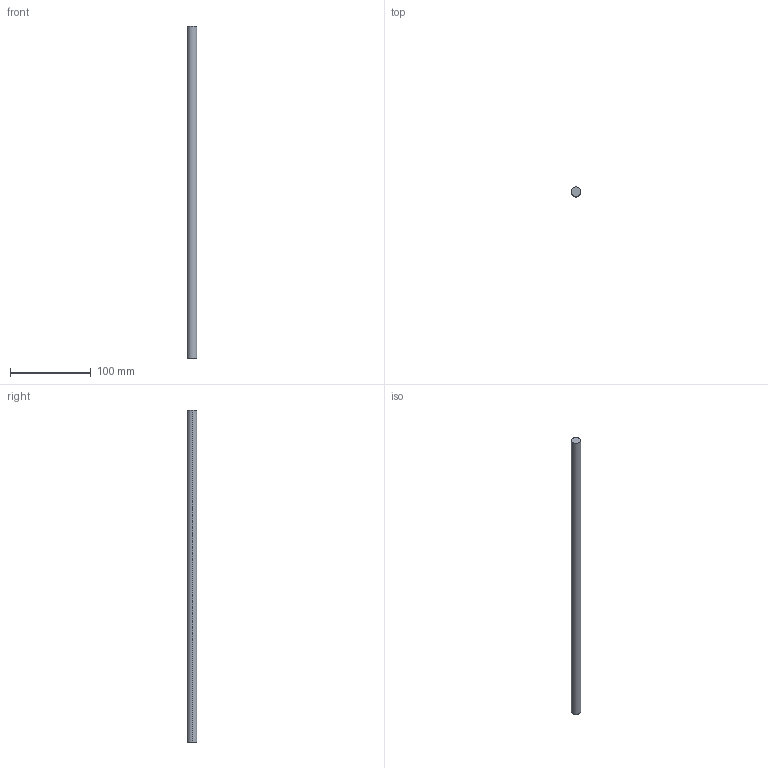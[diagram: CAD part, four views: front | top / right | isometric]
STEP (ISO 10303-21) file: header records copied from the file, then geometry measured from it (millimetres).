
FILE_DESCRIPTION (( 'STEP AP214' ), '1' );
FILE_NAME ('Magic Reling längs - 450.step', '2010-09-07T14:56:16', ( 'grass' ), ( '' ), 'SwSTEP 2.0', 'SolidWorks 2010', '' );
FILE_SCHEMA (( 'AUTOMOTIVE_DESIGN' ));
Length unit declared in the file: millimetre
Products named in the file (1): Magic Reling längs - 450
Bounding box: 12 x 12 x 412 mm (x, y, z)
Volume: 46596.1 mm3; surface area: 15758.2 mm2
Topology: 1 solids, 1 shells, 4 faces, 6 edges, 4 vertices
Faces by surface type: cylinder 2, plane 2
Entity records: 128 total; most frequent: DIRECTION 20, CARTESIAN_POINT 15, ORIENTED_EDGE 12, AXIS2_PLACEMENT_3D 9, EDGE_CURVE 6, EDGE_LOOP 4, FACE_OUTER_BOUND 4, CIRCLE 4
